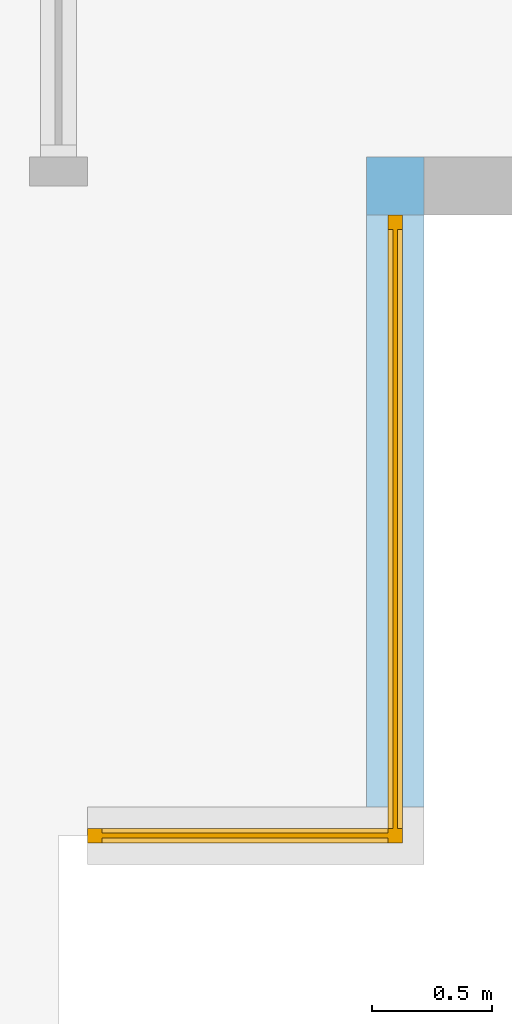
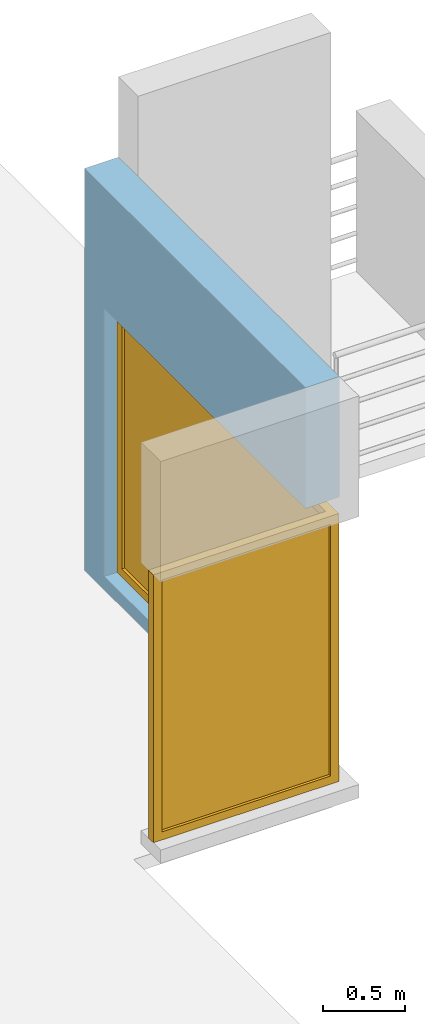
# One storey, part 29 of 33: 1 window, 1 opening, plus 1 element that does not belong to this part.
"""IFC2X3 building model written with IfcOpenShell, lengths in millimetres."""

from ifc_helpers import new_model, entity, si_unit, converted_unit, derived_unit, direction, frame, frame_2d, origin, place, context, subcontext, project, spatial, rectangle, extrude, faceted_brep, source, transform, mapped, material, material_list, layer, layer_set, layer_usage, type_object, type_shapes, element, fill, save


model = new_model("IFC2X3")

# Units and contexts
model_context = context("Model", 3, precision=0.01, world=origin(), true_north=direction((6.12303176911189e-17, 1.0)))
body_context = subcontext(model_context, "Body", "Model", "MODEL_VIEW")
ifc_project = project(units=[si_unit("LENGTHUNIT", "METRE", prefix="MILLI"), si_unit("AREAUNIT", "SQUARE_METRE"), si_unit("VOLUMEUNIT", "CUBIC_METRE"), converted_unit("PLANEANGLEUNIT", "DEGREE", entity("IfcRatioMeasure", 0.0174532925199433), si_unit("PLANEANGLEUNIT", "RADIAN"), dimensions=[0, 0, 0, 0, 0, 0, 0]), si_unit("MASSUNIT", "GRAM", prefix="KILO"), derived_unit("MASSDENSITYUNIT", [(si_unit("MASSUNIT", "GRAM", prefix="KILO"), 1), (si_unit("LENGTHUNIT", "METRE"), -3)]), si_unit("TIMEUNIT", "SECOND"), si_unit("FREQUENCYUNIT", "HERTZ"), si_unit("THERMODYNAMICTEMPERATUREUNIT", "DEGREE_CELSIUS"), derived_unit("THERMALTRANSMITTANCEUNIT", [(si_unit("MASSUNIT", "GRAM", prefix="KILO"), 1), (si_unit("THERMODYNAMICTEMPERATUREUNIT", "KELVIN"), -1), (si_unit("TIMEUNIT", "SECOND"), -3)]), derived_unit("VOLUMETRICFLOWRATEUNIT", [(si_unit("LENGTHUNIT", "METRE"), 3), (si_unit("TIMEUNIT", "SECOND"), -1)]), si_unit("ELECTRICCURRENTUNIT", "AMPERE"), si_unit("ELECTRICVOLTAGEUNIT", "VOLT"), si_unit("POWERUNIT", "WATT"), si_unit("FORCEUNIT", "NEWTON", prefix="KILO"), si_unit("ILLUMINANCEUNIT", "LUX"), si_unit("LUMINOUSFLUXUNIT", "LUMEN"), si_unit("LUMINOUSINTENSITYUNIT", "CANDELA"), derived_unit("USERDEFINED", [(si_unit("MASSUNIT", "GRAM", prefix="KILO"), -1), (si_unit("LENGTHUNIT", "METRE"), -2), (si_unit("TIMEUNIT", "SECOND"), 3), (si_unit("LUMINOUSFLUXUNIT", "LUMEN"), 1)]), derived_unit("LINEARVELOCITYUNIT", [(si_unit("LENGTHUNIT", "METRE"), 1), (si_unit("TIMEUNIT", "SECOND"), -1)]), si_unit("PRESSUREUNIT", "PASCAL"), derived_unit("USERDEFINED", [(si_unit("LENGTHUNIT", "METRE"), -2), (si_unit("MASSUNIT", "GRAM", prefix="KILO"), 1), (si_unit("TIMEUNIT", "SECOND"), -2)])], contexts=[model_context])

# Site, building, storey
site_placement = place(None, origin())
site = spatial("IfcSite", under=ifc_project, at=site_placement, Name="表面", CompositionType="ELEMENT")
building_placement = place(site_placement, origin())
building = spatial("IfcBuilding", under=site, at=building_placement, CompositionType="ELEMENT")
storey_placement = place(building_placement, frame((0.0, 0.0, 6000.0)))
storey = spatial("IfcBuildingStorey", under=building, at=storey_placement, Name="3F", CompositionType="ELEMENT", Elevation=6000.00000000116)

# Wall, opening, window
ifc_material_1 = material(Name="白色涂料")
ifc_layer_1 = layer(ifc_material_1, 10.0)
ifc_material_2 = material(Name="默认墙")
ifc_layer_2 = layer(ifc_material_2, 220.0)
ifc_layer_3 = layer(ifc_material_1, 10.0)
ifc_layer_set = layer_set([ifc_layer_1, ifc_layer_2, ifc_layer_3], Name="基本墙:粉刷墙240")
ifc_layer_usage = layer_usage(ifc_layer_set, "AXIS2", "NEGATIVE", 120.0)
wall_type = type_object("IfcWallType", Name="基本墙:粉刷墙240", PredefinedType="STANDARD", material=ifc_layer_set)
wall_placement = place(storey_placement, frame((-5230.24991264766, -29296.868426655, 0.0), z_axis=(0.0, 0.0, 1.0), x_axis=(0.0, 1.0, 0.0)))
wall = element("IfcWallStandardCase", 1, at=wall_placement, inside=storey, type_object=wall_type, material=ifc_layer_usage, Name="基本墙:粉刷墙240", ObjectType="基本墙:粉刷墙240", context=body_context, shape_type="SweptSolid", body=[
    extrude(rectangle(XDim=2700.0, YDim=240.0, at=frame_2d((1350.0, 0.0), x_axis=(-1.0, 0.0))), origin(), (0.0, 0.0, 1.0), 3000.0),
])
opening_placement = place(wall_placement, frame((-240.0, 1280.0, 100.0), z_axis=(0.0, 0.0, 1.0), x_axis=(0.0, -1.0, 0.0)))
opening = element("IfcOpeningElement", 2, at=opening_placement, cuts=wall, Name="基本墙:粉刷墙240", ObjectType="Opening", context=body_context, shape_type="Brep", body=[
    faceted_brep([(1160.0, 2700.0, 0.0), (1160.0, 2700.0, 2000.0), (1400.0, 2700.0, 2000.0), (1400.0, 2700.0, 0.0), (1160.0, 240.0, 0.0), (1160.0, 240.0, 2000.0), (0.0, 240.0, 2000.0), (0.0, 0.0, 2000.0), (1400.0, 0.0, 2000.0), (1400.0, 0.0, 0.0), (0.0, 0.0, 0.0), (0.0, 240.0, 0.0)], [[[0, 1, 2, 3]], [[1, 0, 4, 5]], [[2, 1, 5, 6, 7, 8]], [[3, 2, 8, 9]], [[0, 3, 9, 10, 11, 4]], [[11, 10, 7, 6]], [[5, 4, 11, 6]], [[9, 8, 7, 10]]]),
])
ifc_material_3 = material(Name="玻璃")
ifc_material_4 = material(Name="铝")
ifc_material_list_1 = material_list([ifc_material_3, ifc_material_4])
ifc_material_list_2 = material_list([ifc_material_3, ifc_material_4])
window_style = type_object("IfcWindowStyle", Name="C1326", ConstructionType="NOTDEFINED", OperationType="NOTDEFINED", ParameterTakesPrecedence=False, Sizeable=False, material=ifc_material_list_2)
shared_shape = source(origin(), body_context, "Body", "Brep", [
    faceted_brep([(2590.0, 60.0, 1940.0), (2590.0, 60.0, 60.0), (2590.0, 1250.0, 60.0), (2590.0, 1250.0, 1940.0), (2570.0, 60.0, 1940.0), (2570.0, 60.0, 60.0), (2570.0, 1250.0, 60.0), (2570.0, 1250.0, 1940.0)], [[[0, 1, 2, 3]], [[1, 0, 4, 5]], [[2, 1, 5, 6]], [[3, 2, 6, 7]], [[4, 7, 6, 5]], [[0, 3, 7, 4]]]),
    faceted_brep([(2550.0, 1270.0, 1940.0), (60.0, 1270.0, 1940.0), (60.0, 1270.0, 60.0), (2550.0, 1270.0, 60.0), (60.0, 1290.0, 1940.0), (60.0, 1290.0, 60.0), (2550.0, 1290.0, 60.0), (2550.0, 1290.0, 1940.0)], [[[0, 1, 2, 3]], [[2, 1, 4, 5]], [[3, 2, 5, 6]], [[0, 3, 6, 7]], [[7, 6, 5, 4]], [[1, 0, 7, 4]]]),
    faceted_brep([(0.0, 1310.0, 2000.0), (0.0, 1310.0, 0.0), (0.0, 1250.0, 0.0), (0.0, 1250.0, 2000.0), (2610.0, 1310.0, 2000.0), (2610.0, 1310.0, 0.0), (2550.0, 1310.0, 60.0), (2550.0, 1310.0, 1940.0), (60.0, 1310.0, 1940.0), (60.0, 1310.0, 60.0), (2610.0, 0.0, 0.0), (2550.0, 0.0, 0.0), (2550.0, 1250.0, 0.0), (2550.0, 1250.0, 60.0), (60.0, 1250.0, 60.0), (60.0, 1250.0, 1940.0), (2550.0, 1250.0, 1940.0), (2550.0, 1250.0, 2000.0), (2610.0, 0.0, 2000.0), (2610.0, 60.0, 1940.0), (2610.0, 1250.0, 1940.0), (2610.0, 1250.0, 60.0), (2610.0, 60.0, 60.0), (2550.0, 0.0, 2000.0), (2550.0, 60.0, 60.0), (2550.0, 60.0, 1940.0)], [[[0, 1, 2, 3]], [[1, 0, 4, 5], [6, 7, 8, 9]], [[2, 1, 5, 10, 11, 12]], [[3, 2, 12, 13, 14, 15, 16, 17]], [[5, 4, 18, 10], [19, 20, 21, 22]], [[16, 7, 6, 13]], [[14, 9, 8, 15]], [[13, 6, 9, 14]], [[11, 10, 18, 23]], [[20, 16, 13, 21]], [[21, 13, 24, 22]], [[25, 19, 22, 24]], [[0, 3, 17, 23, 18, 4]], [[7, 16, 15, 8]], [[16, 20, 19, 25]], [[12, 11, 23, 17, 16, 25, 24, 13]]]),
])
type_shapes(window_style, [shared_shape])
window_placement = place(opening_placement, frame((0.0, 2700.0, 0.0), z_axis=(0.0, 0.0, 1.0), x_axis=(0.0, -1.0, 0.0)))
window = element("IfcWindow", 3, at=window_placement, inside=storey, type_object=window_style, material=ifc_material_list_1, Name="转角窗:C1326", ObjectType="C1326", OverallHeight=2000.00000000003, OverallWidth=2700.0, context=body_context, shape_type="MappedRepresentation", body=[
    mapped(shared_shape, transform((0.0, 0.0, 0.0), scale=1.0)),
])
fill(opening, window)

save(model, "model.ifc")
